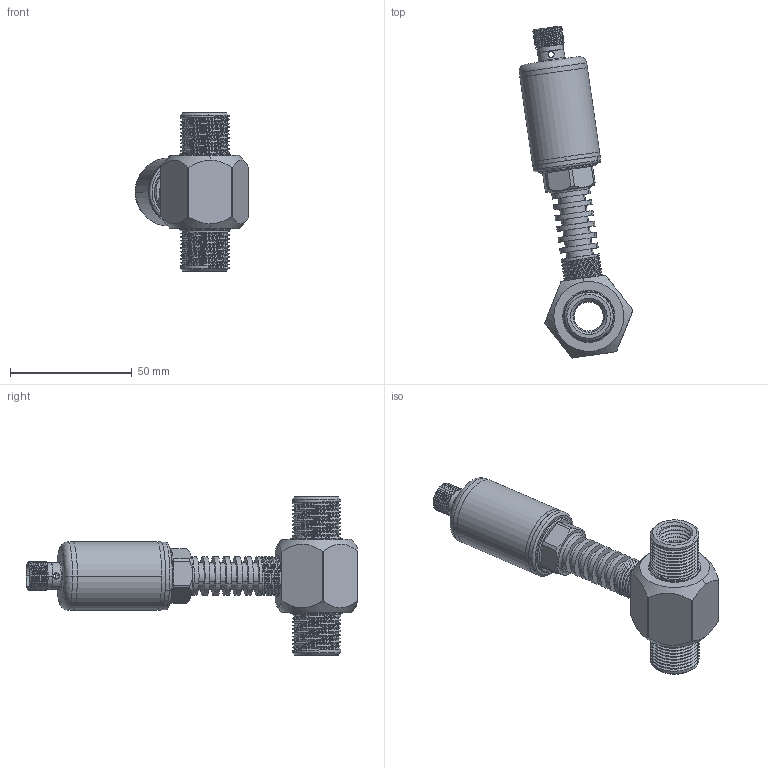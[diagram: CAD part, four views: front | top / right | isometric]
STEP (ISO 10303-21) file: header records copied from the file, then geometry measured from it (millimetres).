
FILE_DESCRIPTION (( 'STEP AP214' ), '1' );
FILE_NAME ('BFW1M12-J.STEP', '2026-07-04T11:09:08', ( '' ), ( '' ), 'SwSTEP 2.0', 'SolidWorks 2023', '' );
FILE_SCHEMA (( 'AUTOMOTIVE_DESIGN' ));
Length unit declared in the file: millimetre
Products named in the file (7): 壳体; BFW1M12-J; 连接管; 压力变送器; 主体; 垫片; 高温探头
Assembly tree (6 placements, depth 3):
  BFW1M12-J
    压力变送器
      壳体
      垫片
      连接管
    主体
    高温探头
Bounding box: 46.71 x 136.33 x 65 mm (x, y, z)
Volume: 38980.4 mm3; surface area: 30791.2 mm2
Topology: 5 solids, 5 shells, 389 faces, 970 edges, 619 vertices
Faces by surface type: cylinder 235, plane 66, cone 54, bspline 22, torus 12
Entity records: 22266 total; most frequent: CARTESIAN_POINT 13634, ORIENTED_EDGE 1940, DIRECTION 1622, EDGE_CURVE 970, AXIS2_PLACEMENT_3D 649, VERTEX_POINT 619, EDGE_LOOP 435, FACE_OUTER_BOUND 389
